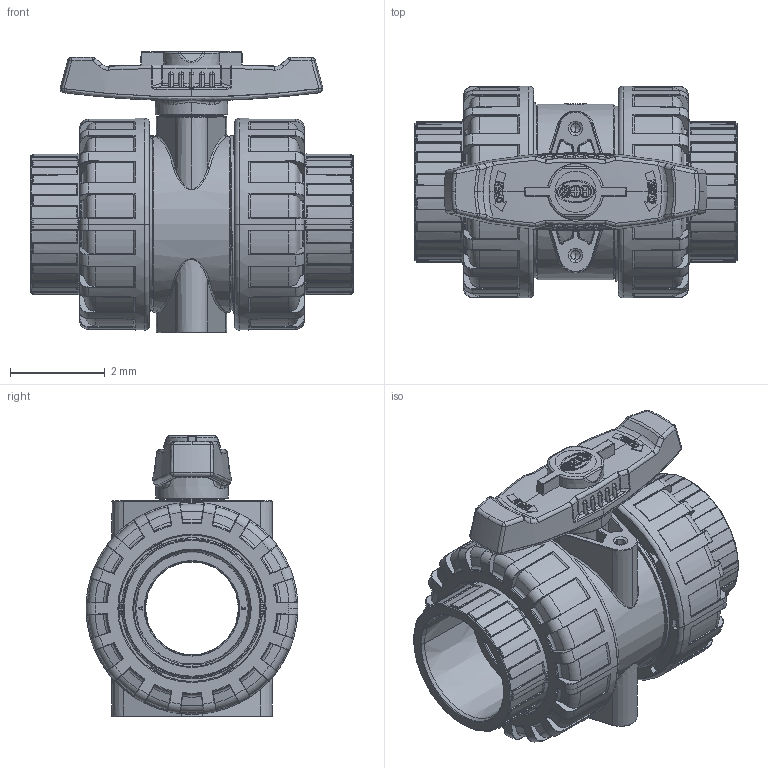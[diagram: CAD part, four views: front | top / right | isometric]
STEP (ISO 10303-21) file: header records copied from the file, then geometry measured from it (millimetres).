
FILE_DESCRIPTION(('Open CASCADE Model'),'2;1');
FILE_NAME('Open CASCADE Shape Model','2022-07-18T08:27:13',('Author'),( 'Open CASCADE'),'Open CASCADE STEP processor 7.3','Open CASCADE 7.3' ,'Unknown');
FILE_SCHEMA(('AUTOMOTIVE_DESIGN { 1 0 10303 214 1 1 1 1 }'));
Length unit declared in the file: millimetre
Products named in the file (19): Open CASCADE STEP translator 7.3 1; Open CASCADE STEP translator 7.3 1.1; Open CASCADE STEP translator 7.3 1.2; Open CASCADE STEP translator 7.3 1.3; Open CASCADE STEP translator 7.3 1.4; Open CASCADE STEP translator 7.3 1.5; Open CASCADE STEP translator 7.3 1.6; Open CASCADE STEP translator 7.3 1.7; Open CASCADE STEP translator 7.3 1.8; Open CASCADE STEP translator 7.3 1.9; Open CASCADE STEP translator 7.3 1.10; Open CASCADE STEP translator 7.3 1.11; Open CASCADE STEP translator 7.3 1.12; Open CASCADE STEP translator 7.3 1.13; Open CASCADE STEP translator 7.3 1.14; Open CASCADE STEP translator 7.3 1.15; Open CASCADE STEP translator 7.3 1.16; Open CASCADE STEP translator 7.3 1.17; Open CASCADE STEP translator 7.3 1.18
Assembly tree (18 placements, depth 2):
  Open CASCADE STEP translator 7.3 1
    Open CASCADE STEP translator 7.3 1.1
    Open CASCADE STEP translator 7.3 1.2
    Open CASCADE STEP translator 7.3 1.3
    Open CASCADE STEP translator 7.3 1.4
    Open CASCADE STEP translator 7.3 1.5
    Open CASCADE STEP translator 7.3 1.6
    Open CASCADE STEP translator 7.3 1.7
    Open CASCADE STEP translator 7.3 1.8
    Open CASCADE STEP translator 7.3 1.9
    Open CASCADE STEP translator 7.3 1.10
    Open CASCADE STEP translator 7.3 1.11
    Open CASCADE STEP translator 7.3 1.12
    Open CASCADE STEP translator 7.3 1.13
    Open CASCADE STEP translator 7.3 1.14
    Open CASCADE STEP translator 7.3 1.15
    Open CASCADE STEP translator 7.3 1.16
    Open CASCADE STEP translator 7.3 1.17
    Open CASCADE STEP translator 7.3 1.18
Bounding box: 6.8 x 4.47 x 5.93 mm (x, y, z)
Volume: 55.1 mm3; surface area: 493.1 mm2
Topology: 18 solids, 18 shells, 2957 faces, 7533 edges, 4608 vertices
Faces by surface type: bspline 749, plane 697, torus 457, cone 444, cylinder 440, sphere 130, revolution 40
Entity records: 375105 total; most frequent: CARTESIAN_POINT 247135, DIRECTION 17358, ORIENTED_EDGE 14830, PCURVE 14830, DEFINITIONAL_REPRESENTATION 14830, B_SPLINE_CURVE_WITH_KNOTS 11187, LINE 7493, VECTOR 7493
